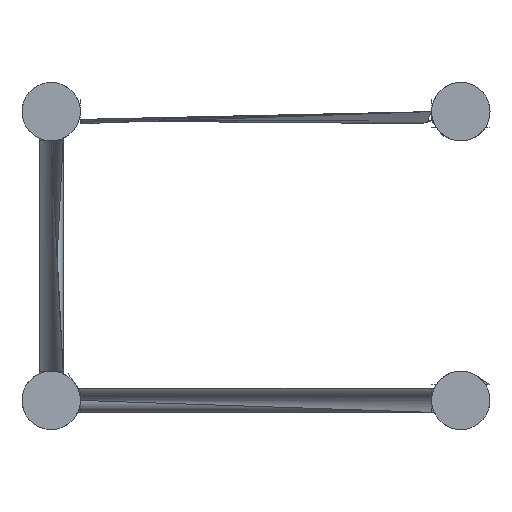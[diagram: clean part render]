
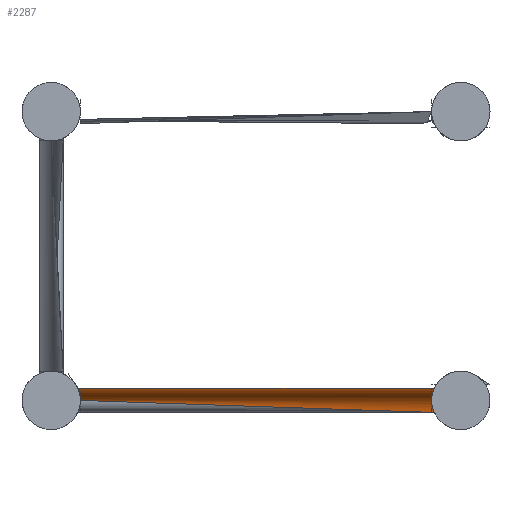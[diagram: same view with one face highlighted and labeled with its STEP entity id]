
A CAD part, left-side view. The second image highlights one B-rep face of the part: STEP entity #2287.
In plain terms, the highlighted cylindrical face has radius 10 mm (diameter 20 mm), a partial arc.
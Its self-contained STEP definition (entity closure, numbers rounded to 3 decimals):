
#50=B_SPLINE_CURVE_WITH_KNOTS('',3,(#4648,#4649,#4650,#4651,#4652,#4653,
#4654,#4655,#4656,#4657,#4658,#4659,#4660,#4661,#4662,#4663,#4664,#4665,
#4666,#4667,#4668,#4669,#4670,#4671,#4672,#4673,#4674,#4675,#4676,#4677,
#4678,#4679,#4680,#4681,#4682,#4683,#4684,#4685,#4686,#4687,#4688,#4689),
 .UNSPECIFIED.,.T.,.F.,(4,2,2,2,2,2,2,2,2,2,2,2,2,2,2,2,2,2,2,2,4),(0.,
0.486,0.729,0.973,1.364,1.755,
2.12,2.486,2.742,2.998,3.51,
4.177,4.845,5.236,5.431,5.627,
5.822,6.018,6.409,7.077,7.744),
 .UNSPECIFIED.);
#51=B_SPLINE_CURVE_WITH_KNOTS('',3,(#4691,#4692,#4693,#4694,#4695,#4696,
#4697,#4698,#4699,#4700,#4701,#4702,#4703,#4704,#4705,#4706,#4707,#4708,
#4709,#4710,#4711,#4712,#4713,#4714,#4715,#4716,#4717,#4718,#4719,#4720,
#4721,#4722,#4723,#4724,#4725,#4726,#4727,#4728,#4729,#4730,#4731,#4732),
 .UNSPECIFIED.,.T.,.F.,(4,2,2,2,2,2,2,2,2,2,2,2,2,2,2,2,2,2,2,2,4),(0.,
0.486,0.729,0.973,1.364,
1.755,2.145,2.536,2.78,3.023,
3.509,4.177,4.844,5.235,5.431,
5.626,5.822,6.017,6.409,7.076,
7.744),.UNSPECIFIED.);
#175=FACE_BOUND('',#599,.T.);
#309=CYLINDRICAL_SURFACE('',#2536,10.);
#422=FACE_OUTER_BOUND('',#598,.T.);
#598=EDGE_LOOP('',(#1761));
#599=EDGE_LOOP('',(#1762));
#1093=VERTEX_POINT('',#4647);
#1094=VERTEX_POINT('',#4690);
#1357=EDGE_CURVE('',#1093,#1093,#50,.T.);
#1358=EDGE_CURVE('',#1094,#1094,#51,.T.);
#1761=ORIENTED_EDGE('',*,*,#1357,.F.);
#1762=ORIENTED_EDGE('',*,*,#1358,.F.);
#2287=ADVANCED_FACE('',(#422,#175),#309,.T.);
#2536=AXIS2_PLACEMENT_3D('',#4646,#3059,#3060);
#3059=DIRECTION('center_axis',(0.749,0.663,0.));
#3060=DIRECTION('ref_axis',(0.663,-0.749,0.));
#4646=CARTESIAN_POINT('Origin',(97.261,16.66,-239.));
#4647=CARTESIAN_POINT('',(103.277,21.982,-229.));
#4648=CARTESIAN_POINT('Ctrl Pts',(103.277,21.982,-229.));
#4649=CARTESIAN_POINT('Ctrl Pts',(101.656,21.982,-229.));
#4650=CARTESIAN_POINT('Ctrl Pts',(99.89,22.069,-229.18));
#4651=CARTESIAN_POINT('Ctrl Pts',(97.418,22.366,-229.887));
#4652=CARTESIAN_POINT('Ctrl Pts',(96.621,22.491,-230.194));
#4653=CARTESIAN_POINT('Ctrl Pts',(95.143,22.775,-230.956));
#4654=CARTESIAN_POINT('Ctrl Pts',(94.462,22.933,-231.411));
#4655=CARTESIAN_POINT('Ctrl Pts',(92.89,23.347,-232.762));
#4656=CARTESIAN_POINT('Ctrl Pts',(92.039,23.629,-233.855));
#4657=CARTESIAN_POINT('Ctrl Pts',(90.914,24.034,-236.323));
#4658=CARTESIAN_POINT('Ctrl Pts',(90.635,24.15,-237.697));
#4659=CARTESIAN_POINT('Ctrl Pts',(90.635,24.15,-240.219));
#4660=CARTESIAN_POINT('Ctrl Pts',(90.88,24.048,-241.511));
#4661=CARTESIAN_POINT('Ctrl Pts',(91.876,23.685,-243.861));
#4662=CARTESIAN_POINT('Ctrl Pts',(92.631,23.429,-244.918));
#4663=CARTESIAN_POINT('Ctrl Pts',(94.102,23.022,-246.32));
#4664=CARTESIAN_POINT('Ctrl Pts',(94.796,22.851,-246.826));
#4665=CARTESIAN_POINT('Ctrl Pts',(96.315,22.543,-247.674));
#4666=CARTESIAN_POINT('Ctrl Pts',(97.14,22.406,-248.015));
#4667=CARTESIAN_POINT('Ctrl Pts',(99.715,22.079,-248.8));
#4668=CARTESIAN_POINT('Ctrl Pts',(101.571,21.982,-249.));
#4669=CARTESIAN_POINT('Ctrl Pts',(105.502,21.982,-249.));
#4670=CARTESIAN_POINT('Ctrl Pts',(107.898,22.14,-248.67));
#4671=CARTESIAN_POINT('Ctrl Pts',(112.494,22.649,-247.409));
#4672=CARTESIAN_POINT('Ctrl Pts',(114.698,22.995,-246.486));
#4673=CARTESIAN_POINT('Ctrl Pts',(117.615,23.511,-244.568));
#4674=CARTESIAN_POINT('Ctrl Pts',(118.701,23.72,-243.664));
#4675=CARTESIAN_POINT('Ctrl Pts',(119.904,23.961,-242.065));
#4676=CARTESIAN_POINT('Ctrl Pts',(120.234,24.029,-241.492));
#4677=CARTESIAN_POINT('Ctrl Pts',(120.692,24.123,-240.286));
#4678=CARTESIAN_POINT('Ctrl Pts',(120.818,24.15,-239.652));
#4679=CARTESIAN_POINT('Ctrl Pts',(120.818,24.15,-238.348));
#4680=CARTESIAN_POINT('Ctrl Pts',(120.692,24.123,-237.714));
#4681=CARTESIAN_POINT('Ctrl Pts',(120.234,24.029,-236.508));
#4682=CARTESIAN_POINT('Ctrl Pts',(119.904,23.961,-235.935));
#4683=CARTESIAN_POINT('Ctrl Pts',(118.701,23.72,-234.336));
#4684=CARTESIAN_POINT('Ctrl Pts',(117.615,23.511,-233.432));
#4685=CARTESIAN_POINT('Ctrl Pts',(114.698,22.995,-231.514));
#4686=CARTESIAN_POINT('Ctrl Pts',(112.494,22.649,-230.591));
#4687=CARTESIAN_POINT('Ctrl Pts',(107.898,22.14,-229.33));
#4688=CARTESIAN_POINT('Ctrl Pts',(105.502,21.982,-229.));
#4689=CARTESIAN_POINT('Ctrl Pts',(103.277,21.982,-229.));
#4690=CARTESIAN_POINT('',(449.395,314.85,-239.));
#4691=CARTESIAN_POINT('Ctrl Pts',(436.754,317.018,-229.));
#4692=CARTESIAN_POINT('Ctrl Pts',(438.374,317.018,-229.));
#4693=CARTESIAN_POINT('Ctrl Pts',(440.14,316.931,-229.18));
#4694=CARTESIAN_POINT('Ctrl Pts',(442.613,316.634,-229.887));
#4695=CARTESIAN_POINT('Ctrl Pts',(443.409,316.509,-230.194));
#4696=CARTESIAN_POINT('Ctrl Pts',(444.887,316.225,-230.956));
#4697=CARTESIAN_POINT('Ctrl Pts',(445.568,316.067,-231.411));
#4698=CARTESIAN_POINT('Ctrl Pts',(447.14,315.653,-232.762));
#4699=CARTESIAN_POINT('Ctrl Pts',(447.991,315.371,-233.855));
#4700=CARTESIAN_POINT('Ctrl Pts',(449.116,314.966,-236.323));
#4701=CARTESIAN_POINT('Ctrl Pts',(449.395,314.85,-237.697));
#4702=CARTESIAN_POINT('Ctrl Pts',(449.395,314.85,-240.303));
#4703=CARTESIAN_POINT('Ctrl Pts',(449.116,314.966,-241.677));
#4704=CARTESIAN_POINT('Ctrl Pts',(447.991,315.371,-244.145));
#4705=CARTESIAN_POINT('Ctrl Pts',(447.14,315.653,-245.238));
#4706=CARTESIAN_POINT('Ctrl Pts',(445.568,316.067,-246.589));
#4707=CARTESIAN_POINT('Ctrl Pts',(444.887,316.225,-247.044));
#4708=CARTESIAN_POINT('Ctrl Pts',(443.409,316.509,-247.806));
#4709=CARTESIAN_POINT('Ctrl Pts',(442.613,316.634,-248.113));
#4710=CARTESIAN_POINT('Ctrl Pts',(440.14,316.931,-248.82));
#4711=CARTESIAN_POINT('Ctrl Pts',(438.374,317.018,-249.));
#4712=CARTESIAN_POINT('Ctrl Pts',(434.529,317.018,-249.));
#4713=CARTESIAN_POINT('Ctrl Pts',(432.133,316.86,-248.67));
#4714=CARTESIAN_POINT('Ctrl Pts',(427.536,316.351,-247.409));
#4715=CARTESIAN_POINT('Ctrl Pts',(425.332,316.005,-246.486));
#4716=CARTESIAN_POINT('Ctrl Pts',(422.415,315.489,-244.568));
#4717=CARTESIAN_POINT('Ctrl Pts',(421.329,315.28,-243.664));
#4718=CARTESIAN_POINT('Ctrl Pts',(420.126,315.039,-242.065));
#4719=CARTESIAN_POINT('Ctrl Pts',(419.796,314.971,-241.492));
#4720=CARTESIAN_POINT('Ctrl Pts',(419.338,314.877,-240.286));
#4721=CARTESIAN_POINT('Ctrl Pts',(419.212,314.85,-239.652));
#4722=CARTESIAN_POINT('Ctrl Pts',(419.212,314.85,-238.348));
#4723=CARTESIAN_POINT('Ctrl Pts',(419.338,314.877,-237.714));
#4724=CARTESIAN_POINT('Ctrl Pts',(419.796,314.971,-236.508));
#4725=CARTESIAN_POINT('Ctrl Pts',(420.126,315.039,-235.935));
#4726=CARTESIAN_POINT('Ctrl Pts',(421.329,315.28,-234.336));
#4727=CARTESIAN_POINT('Ctrl Pts',(422.415,315.489,-233.432));
#4728=CARTESIAN_POINT('Ctrl Pts',(425.332,316.005,-231.514));
#4729=CARTESIAN_POINT('Ctrl Pts',(427.536,316.351,-230.591));
#4730=CARTESIAN_POINT('Ctrl Pts',(432.133,316.86,-229.33));
#4731=CARTESIAN_POINT('Ctrl Pts',(434.529,317.018,-229.));
#4732=CARTESIAN_POINT('Ctrl Pts',(436.754,317.018,-229.));
